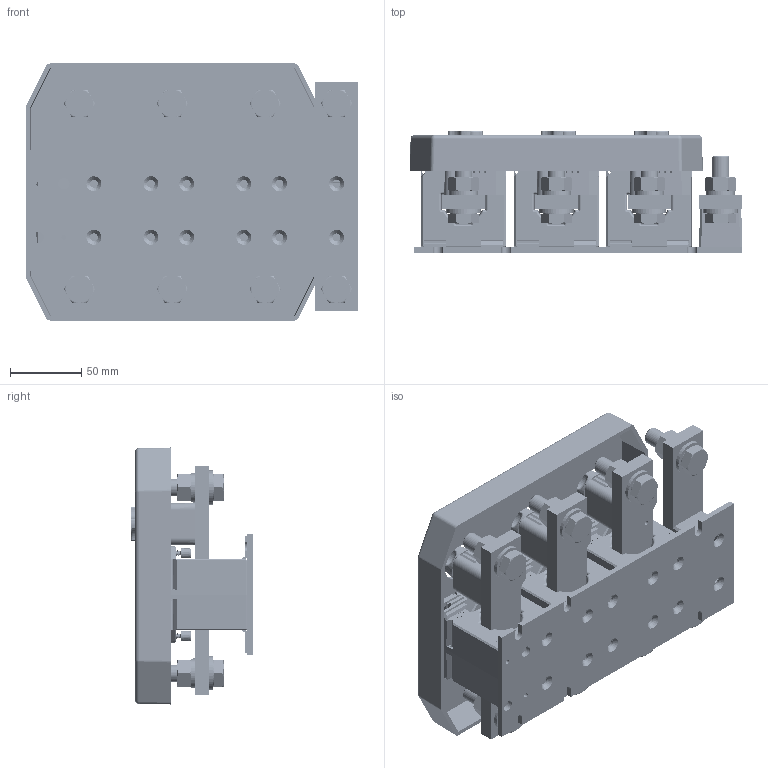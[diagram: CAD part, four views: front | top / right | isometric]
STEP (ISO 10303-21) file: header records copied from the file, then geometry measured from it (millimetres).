
FILE_DESCRIPTION (( 'STEP AP214' ), '1' );
FILE_NAME ('ASKD31.5.STEP', '2012-02-07T14:27:13', ( ' ' ), ( '' ), 'SwSTEP 2.0', 'SolidWorks 2010', '' );
FILE_SCHEMA (( 'AUTOMOTIVE_DESIGN' ));
Products named in the file (20): Isolierschutzkappe; Spannscheibe_DIN128-12; Erdungsschiene_EWSKD31.5_Variante2; Erdungsschiene_EWSKD31.5_Variante3; MBS_WN-003_04_Klemme_WN-003_02; Distanzhalter_EASKD31.5; Sicherungselement; Linsenschraube DIN 7985 4.8 VZ M 5 x 10; EASKD31.5_Abdeckung; Sechskantschraube DIN 933 M12x40; Scheibe DIN 125 ST 13; Sechskantmutter DIN 934 8 M 12; Grundplatte_EASKD31.5; ASKD31.5; ASK31_5_11; ASK31_5_11_Gehäuseoberteil; ASK31_5_kpl; Plastite_Schraube_30_mit-Gewinde; ASK103.41_Klappe; Fusswinkel_1,5
Assembly tree (63 placements, depth 3):
  ASKD31.5
    Sechskantmutter DIN 934 8 M 12  x8
    Erdungsschiene_EWSKD31.5_Variante2  x5
    ASK31_5_kpl  x3
      MBS_WN-003_04_Klemme_WN-003_02
      Isolierschutzkappe
      ASK31_5_11
      Plastite_Schraube_30_mit-Gewinde
      ASK103.41_Klappe
      Linsenschraube DIN 7985 4.8 VZ M 5 x 10
      ASK31_5_11_Gehäuseoberteil
      Fusswinkel_1,5
    Scheibe DIN 125 ST 13  x8
    Spannscheibe_DIN128-12  x8
    Sicherungselement  x3
    Grundplatte_EASKD31.5
    EASKD31.5_Abdeckung
    Sechskantschraube DIN 933 M12x40  x8
    Erdungsschiene_EWSKD31.5_Variante3
    Distanzhalter_EASKD31.5
Bounding box: 232.5 x 85.2 x 180 mm (x, y, z)
Volume: 1189358.7 mm3; surface area: 475971.8 mm2
Topology: 92 solids, 98 shells, 7657 faces, 19914 edges, 12728 vertices
Faces by surface type: plane 4718, bspline 1284, cylinder 1037, cone 430, torus 132, sphere 56
Entity records: 98505 total; most frequent: CARTESIAN_POINT 43424, ORIENTED_EDGE 12014, DIRECTION 9346, EDGE_CURVE 6007, VECTOR 4200, LINE 4200, VERTEX_POINT 3892, AXIS2_PLACEMENT_3D 2573
